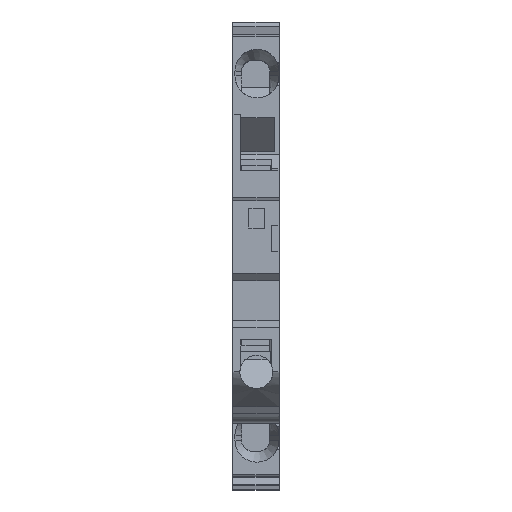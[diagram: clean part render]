
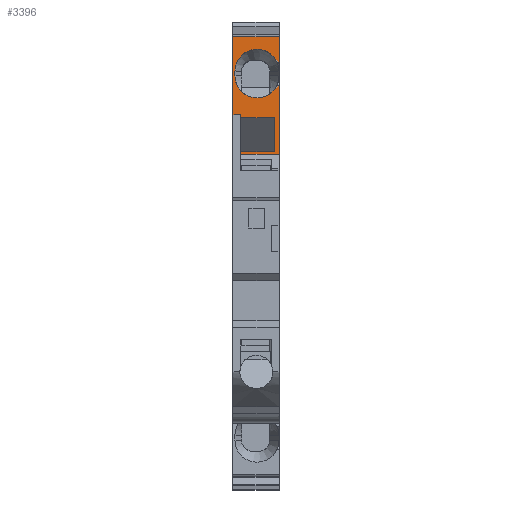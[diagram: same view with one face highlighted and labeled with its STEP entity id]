
A CAD part, top view. The second image highlights one B-rep face of the part: STEP entity #3396.
In plain terms, the highlighted planar face has unit normal (0, 0, 1).
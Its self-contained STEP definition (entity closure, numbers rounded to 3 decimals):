
#91=CARTESIAN_POINT('',(0.,27.918,35.25));
#92=VERTEX_POINT('',#91);
#99=CARTESIAN_POINT('',(0.,59.54,35.25));
#100=VERTEX_POINT('',#99);
#101=CARTESIAN_POINT('',(0.,27.918,35.25));
#102=DIRECTION('',(0.,1.,-0.));
#103=VECTOR('',#102,31.621);
#104=LINE('',#101,#103);
#105=EDGE_CURVE('',#92,#100,#104,.T.);
#1007=CARTESIAN_POINT('',(6.15,59.54,35.25));
#1008=VERTEX_POINT('',#1007);
#1015=CARTESIAN_POINT('',(6.15,56.2,35.25));
#1016=VERTEX_POINT('',#1015);
#1017=CARTESIAN_POINT('',(6.15,56.2,35.25));
#1018=DIRECTION('',(0.,1.,-0.));
#1019=VECTOR('',#1018,3.34);
#1020=LINE('',#1017,#1019);
#1021=EDGE_CURVE('',#1016,#1008,#1020,.T.);
#1057=CARTESIAN_POINT('',(6.15,53.2,35.25));
#1058=VERTEX_POINT('',#1057);
#1065=CARTESIAN_POINT('',(6.15,27.918,35.25));
#1066=VERTEX_POINT('',#1065);
#1067=CARTESIAN_POINT('',(6.15,27.918,35.25));
#1068=DIRECTION('',(0.,1.,-0.));
#1069=VECTOR('',#1068,25.282);
#1070=LINE('',#1067,#1069);
#1071=EDGE_CURVE('',#1066,#1058,#1070,.T.);
#1257=CARTESIAN_POINT('',(0.65,48.9,35.25));
#1258=VERTEX_POINT('',#1257);
#1265=CARTESIAN_POINT('',(0.65,44.4,35.25));
#1266=VERTEX_POINT('',#1265);
#1267=CARTESIAN_POINT('',(0.65,48.9,35.25));
#1268=DIRECTION('',(-0.,-1.,0.));
#1269=VECTOR('',#1268,4.5);
#1270=LINE('',#1267,#1269);
#1271=EDGE_CURVE('',#1258,#1266,#1270,.T.);
#1732=CARTESIAN_POINT('',(0.3,55.,35.25));
#1733=VERTEX_POINT('',#1732);
#1740=CARTESIAN_POINT('',(0.3,54.4,35.25));
#1741=VERTEX_POINT('',#1740);
#1742=CARTESIAN_POINT('',(0.3,55.,35.25));
#1743=DIRECTION('',(-0.,-1.,0.));
#1744=VECTOR('',#1743,0.6);
#1745=LINE('',#1742,#1744);
#1746=EDGE_CURVE('',#1733,#1741,#1745,.T.);
#1770=CARTESIAN_POINT('',(3.2,57.9,35.25));
#1771=VERTEX_POINT('',#1770);
#1780=CARTESIAN_POINT('',(3.2,55.,35.25));
#1781=DIRECTION('',(-0.,0.,-1.));
#1782=DIRECTION('',(-0.,-1.,-0.));
#1783=AXIS2_PLACEMENT_3D('',#1780,#1781,#1782);
#1784=CIRCLE('',#1783,2.9);
#1785=EDGE_CURVE('',#1733,#1771,#1784,.T.);
#2728=CARTESIAN_POINT('',(5.84,56.2,35.25));
#2729=VERTEX_POINT('',#2728);
#2730=CARTESIAN_POINT('',(5.84,56.2,35.25));
#2731=DIRECTION('',(1.,-0.,-0.));
#2732=VECTOR('',#2731,0.31);
#2733=LINE('',#2730,#2732);
#2734=EDGE_CURVE('',#2729,#1016,#2733,.T.);
#2777=CARTESIAN_POINT('',(5.5,48.9,35.25));
#2778=VERTEX_POINT('',#2777);
#2787=CARTESIAN_POINT('',(0.65,48.9,35.25));
#2788=DIRECTION('',(1.,-0.,-0.));
#2789=VECTOR('',#2788,4.85);
#2790=LINE('',#2787,#2789);
#2791=EDGE_CURVE('',#1258,#2778,#2790,.T.);
#3207=CARTESIAN_POINT('',(6.15,59.54,35.25));
#3208=DIRECTION('',(-1.,0.,0.));
#3209=VECTOR('',#3208,6.15);
#3210=LINE('',#3207,#3209);
#3211=EDGE_CURVE('',#1008,#100,#3210,.T.);
#3223=CARTESIAN_POINT('',(0.,27.918,35.25));
#3224=DIRECTION('',(1.,-0.,-0.));
#3225=VECTOR('',#3224,6.15);
#3226=LINE('',#3223,#3225);
#3227=EDGE_CURVE('',#92,#1066,#3226,.T.);
#3298=CARTESIAN_POINT('',(-0.618,73.342,35.25));
#3299=DIRECTION('',(-0.,-0.,-1.));
#3300=DIRECTION('',(-0.,-1.,0.));
#3301=AXIS2_PLACEMENT_3D('',#3298,#3299,#3300);
#3302=PLANE('',#3301);
#3303=CARTESIAN_POINT('',(6.1,30.6,35.25));
#3304=VERTEX_POINT('',#3303);
#3305=CARTESIAN_POINT('',(6.1,44.05,35.25));
#3306=VERTEX_POINT('',#3305);
#3307=CARTESIAN_POINT('',(6.1,30.6,35.25));
#3308=DIRECTION('',(-0.,1.,-0.));
#3309=VECTOR('',#3308,13.45);
#3310=LINE('',#3307,#3309);
#3311=EDGE_CURVE('',#3304,#3306,#3310,.T.);
#3312=ORIENTED_EDGE('',*,*,#3311,.F.);
#3313=CARTESIAN_POINT('',(0.05,30.6,35.25));
#3314=VERTEX_POINT('',#3313);
#3315=CARTESIAN_POINT('',(0.05,30.6,35.25));
#3316=DIRECTION('',(1.,0.,0.));
#3317=VECTOR('',#3316,6.05);
#3318=LINE('',#3315,#3317);
#3319=EDGE_CURVE('',#3314,#3304,#3318,.T.);
#3320=ORIENTED_EDGE('',*,*,#3319,.F.);
#3321=CARTESIAN_POINT('',(0.05,44.05,35.25));
#3322=VERTEX_POINT('',#3321);
#3323=CARTESIAN_POINT('',(0.05,30.6,35.25));
#3324=DIRECTION('',(0.,1.,-0.));
#3325=VECTOR('',#3324,13.45);
#3326=LINE('',#3323,#3325);
#3327=EDGE_CURVE('',#3314,#3322,#3326,.T.);
#3328=ORIENTED_EDGE('',*,*,#3327,.T.);
#3329=CARTESIAN_POINT('',(6.1,44.05,35.25));
#3330=DIRECTION('',(-1.,-0.,-0.));
#3331=VECTOR('',#3330,6.05);
#3332=LINE('',#3329,#3331);
#3333=EDGE_CURVE('',#3306,#3322,#3332,.T.);
#3334=ORIENTED_EDGE('',*,*,#3333,.F.);
#3335=EDGE_LOOP('',(#3312,#3320,#3328,#3334));
#3336=FACE_BOUND('',#3335,.T.);
#3337=CARTESIAN_POINT('',(5.5,44.4,35.25));
#3338=VERTEX_POINT('',#3337);
#3339=CARTESIAN_POINT('',(5.5,48.9,35.25));
#3340=DIRECTION('',(-0.,-1.,0.));
#3341=VECTOR('',#3340,4.5);
#3342=LINE('',#3339,#3341);
#3343=EDGE_CURVE('',#2778,#3338,#3342,.T.);
#3344=ORIENTED_EDGE('',*,*,#3343,.T.);
#3345=CARTESIAN_POINT('',(5.5,44.4,35.25));
#3346=DIRECTION('',(-1.,0.,0.));
#3347=VECTOR('',#3346,4.85);
#3348=LINE('',#3345,#3347);
#3349=EDGE_CURVE('',#3338,#1266,#3348,.T.);
#3350=ORIENTED_EDGE('',*,*,#3349,.T.);
#3351=ORIENTED_EDGE('',*,*,#1271,.F.);
#3352=ORIENTED_EDGE('',*,*,#2791,.T.);
#3353=EDGE_LOOP('',(#3344,#3350,#3351,#3352));
#3354=FACE_BOUND('',#3353,.T.);
#3355=ORIENTED_EDGE('',*,*,#1071,.T.);
#3356=CARTESIAN_POINT('',(5.84,53.2,35.25));
#3357=VERTEX_POINT('',#3356);
#3358=CARTESIAN_POINT('',(5.84,53.2,35.25));
#3359=DIRECTION('',(1.,-0.,-0.));
#3360=VECTOR('',#3359,0.31);
#3361=LINE('',#3358,#3360);
#3362=EDGE_CURVE('',#3357,#1058,#3361,.T.);
#3363=ORIENTED_EDGE('',*,*,#3362,.F.);
#3364=CARTESIAN_POINT('',(3.2,51.5,35.25));
#3365=VERTEX_POINT('',#3364);
#3366=CARTESIAN_POINT('',(3.2,54.4,35.25));
#3367=DIRECTION('',(0.,0.,1.));
#3368=DIRECTION('',(-0.,-1.,0.));
#3369=AXIS2_PLACEMENT_3D('',#3366,#3367,#3368);
#3370=CIRCLE('',#3369,2.9);
#3371=EDGE_CURVE('',#3365,#3357,#3370,.T.);
#3372=ORIENTED_EDGE('',*,*,#3371,.F.);
#3373=CARTESIAN_POINT('',(3.2,54.4,35.25));
#3374=DIRECTION('',(0.,0.,1.));
#3375=DIRECTION('',(-0.,-1.,0.));
#3376=AXIS2_PLACEMENT_3D('',#3373,#3374,#3375);
#3377=CIRCLE('',#3376,2.9);
#3378=EDGE_CURVE('',#1741,#3365,#3377,.T.);
#3379=ORIENTED_EDGE('',*,*,#3378,.F.);
#3380=ORIENTED_EDGE('',*,*,#1746,.F.);
#3381=ORIENTED_EDGE('',*,*,#1785,.T.);
#3382=CARTESIAN_POINT('',(3.2,55.,35.25));
#3383=DIRECTION('',(-0.,0.,-1.));
#3384=DIRECTION('',(-0.,-1.,-0.));
#3385=AXIS2_PLACEMENT_3D('',#3382,#3383,#3384);
#3386=CIRCLE('',#3385,2.9);
#3387=EDGE_CURVE('',#1771,#2729,#3386,.T.);
#3388=ORIENTED_EDGE('',*,*,#3387,.T.);
#3389=ORIENTED_EDGE('',*,*,#2734,.T.);
#3390=ORIENTED_EDGE('',*,*,#1021,.T.);
#3391=ORIENTED_EDGE('',*,*,#3211,.T.);
#3392=ORIENTED_EDGE('',*,*,#105,.F.);
#3393=ORIENTED_EDGE('',*,*,#3227,.T.);
#3394=EDGE_LOOP('',(#3355,#3363,#3372,#3379,#3380,#3381,#3388,#3389,#3390,#3391,#3392,#3393));
#3395=FACE_BOUND('',#3394,.T.);
#3396=ADVANCED_FACE('',(#3336,#3354,#3395),#3302,.F.);
